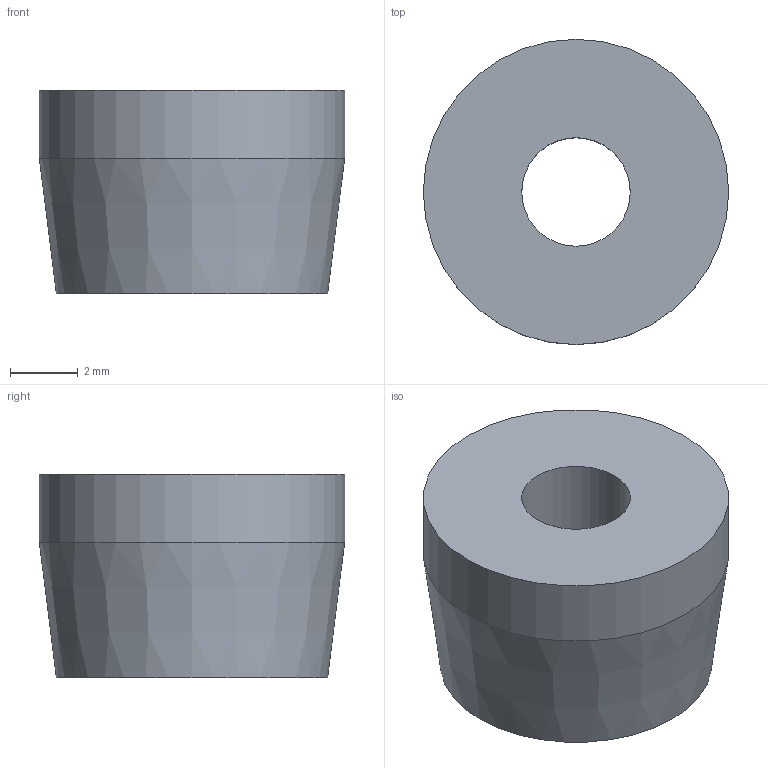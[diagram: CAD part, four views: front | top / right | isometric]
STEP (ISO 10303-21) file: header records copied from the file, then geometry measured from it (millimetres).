
FILE_DESCRIPTION(/* description */ (''),/* implementation_level */ '2;1');
FILE_NAME(/* name */ '3-27-4 Shock stopper.step',/* time_stamp */ '2025-05-10T22:05:42+02:00',/* author */ (''),/* organization */ (''),/* preprocessor_version */ 'ST-DEVELOPER v20.1',/* originating_system */ 'Autodesk Translation Framework v14.4.0.0',/* authorisation */ '');
FILE_SCHEMA (('AUTOMOTIVE_DESIGN { 1 0 10303 214 3 1 1 }'));
Length unit declared in the file: millimetre
Products named in the file (1): 3-27-4 Shock stopper
Bounding box: 9 x 9 x 6 mm (x, y, z)
Volume: 265.8 mm3; surface area: 339.9 mm2
Topology: 1 solids, 1 shells, 7 faces, 11 edges, 7 vertices
Faces by surface type: plane 3, cylinder 3, cone 1
Full cylindrical faces by diameter (mm): 3.2 x1, 6 x1, 9 x1
Entity records: 201 total; most frequent: DIRECTION 34, CARTESIAN_POINT 26, ORIENTED_EDGE 22, AXIS2_PLACEMENT_3D 15, EDGE_CURVE 11, EDGE_LOOP 10, FACE_OUTER_BOUND 7, CIRCLE 7
